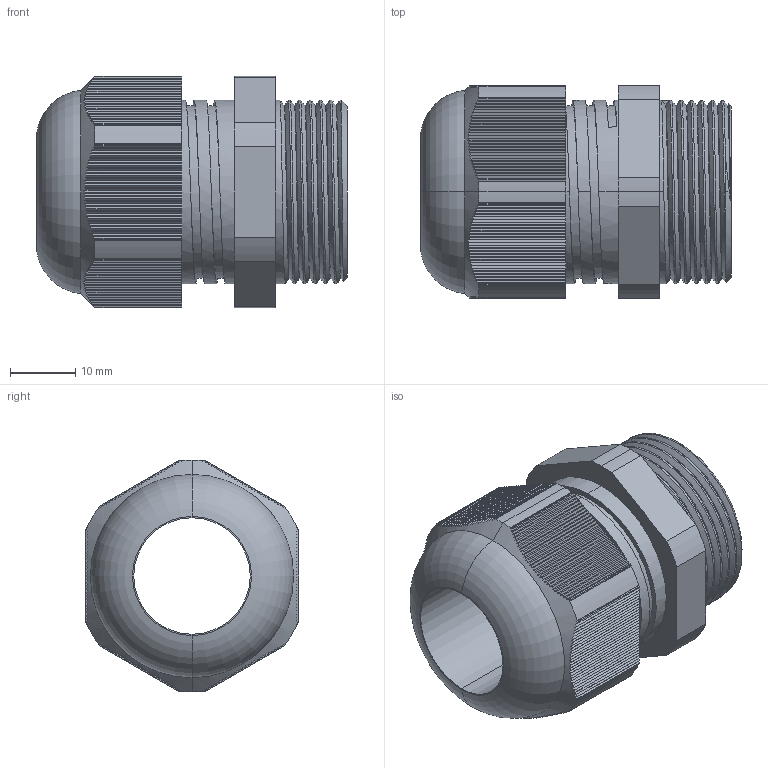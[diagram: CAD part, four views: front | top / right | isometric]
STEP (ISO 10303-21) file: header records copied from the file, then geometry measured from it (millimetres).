
FILE_DESCRIPTION (( 'STEP AP214' ), '1' );
FILE_NAME ('PCG-21.STEP', '2006-05-10T16:02:02', ( 'Mencom User' ), ( 'Mencom Corporation' ), 'SwSTEP 2.0', 'SolidWorks 2006104', '' );
FILE_SCHEMA (( 'AUTOMOTIVE_DESIGN' ));
Length unit declared in the file: inch
Products named in the file (1): PCG-21
Bounding box: 47.55 x 32.66 x 35.46 mm (x, y, z)
Volume: 19386.6 mm3; surface area: 10232 mm2
Topology: 1 solids, 1 shells, 442 faces, 1300 edges, 864 vertices
Faces by surface type: plane 375, cylinder 51, cone 7, bspline 7, torus 2
Entity records: 22961 total; most frequent: CARTESIAN_POINT 6223, ORIENTED_EDGE 2600, DIRECTION 1843, EDGE_CURVE 1300, VERTEX_POINT 864, VECTOR 807, LINE 807, AXIS2_PLACEMENT_3D 518
